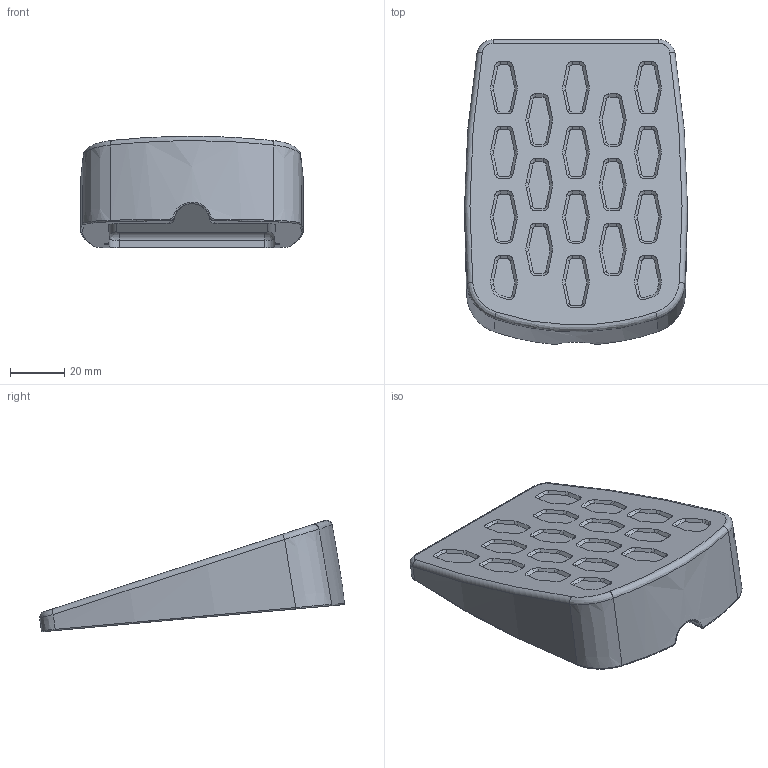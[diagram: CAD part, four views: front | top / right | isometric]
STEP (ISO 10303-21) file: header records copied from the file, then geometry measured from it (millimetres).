
FILE_DESCRIPTION(/* description */ (''),/* implementation_level */ '2;1');
FILE_NAME(/* name */ '2026_Rudder_New Part 01.stp',/* time_stamp */ '2026-01-28T01:45:11+09:00',/* author */ (''),/* organization */ (''),/* preprocessor_version */ 'ST-DEVELOPER v11',/* originating_system */ 'SIEMENS PLM Software NX 7.5',/* authorisation */ '');
FILE_SCHEMA (('CONFIG_CONTROL_DESIGN'));
Length unit declared in the file: millimetre
Products named in the file (1): gyun52C2h81a
Bounding box: 81.99 x 112.07 x 40.99 mm (x, y, z)
Volume: 74411.1 mm3; surface area: 27924.6 mm2
Topology: 1 solids, 1 shells, 296 faces, 796 edges, 520 vertices
Faces by surface type: cone 108, plane 103, bspline 63, cylinder 17, torus 4, extrusion 1
Entity records: 10170 total; most frequent: CARTESIAN_POINT 2976, ORIENTED_EDGE 1592, DIRECTION 1360, EDGE_CURVE 796, VERTEX_POINT 520, AXIS2_PLACEMENT_3D 515, VECTOR 330, LINE 329
